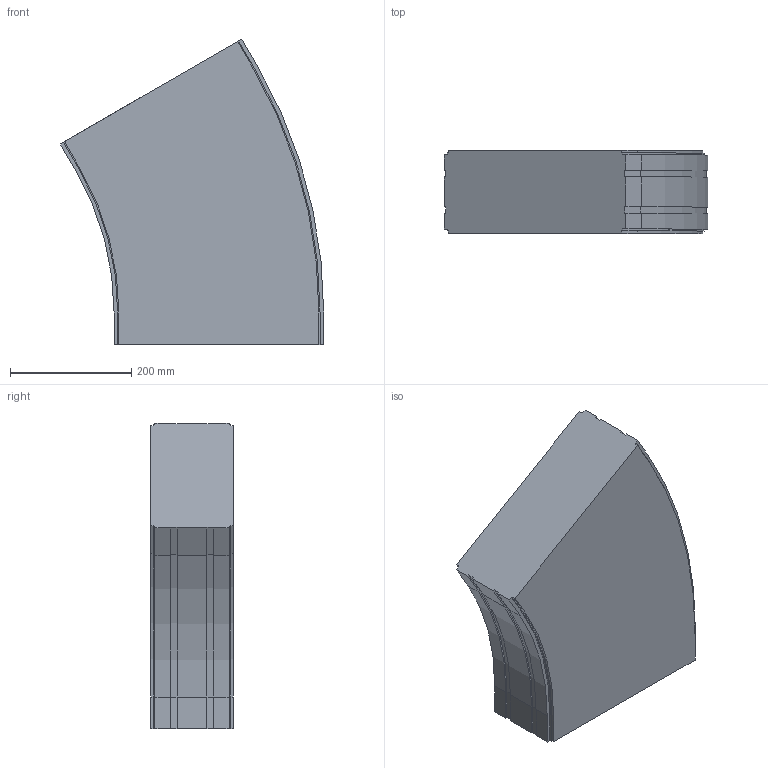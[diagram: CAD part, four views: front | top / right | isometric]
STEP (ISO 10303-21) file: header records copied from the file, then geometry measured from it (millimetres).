
FILE_DESCRIPTION (( 'STEP AP214' ), '1' );
FILE_NAME ('FS-MTC2-150-INOX horizontaalbocht.350 30°.STEP', '2017-02-08T12:40:28', ( '' ), ( '' ), 'SwSTEP 2.0', 'SolidWorks 2016', '' );
FILE_SCHEMA (( 'AUTOMOTIVE_DESIGN' ));
Length unit declared in the file: millimetre
Products named in the file (1): FS-MTC2-150-INOX horizontaalbocht.350 30°
Bounding box: 434.82 x 136.5 x 504.47 mm (x, y, z)
Volume: 20652107.5 mm3; surface area: 527352.9 mm2
Topology: 1 solids, 1 shells, 74 faces, 216 edges, 144 vertices
Faces by surface type: plane 56, cylinder 18
Entity records: 2470 total; most frequent: CARTESIAN_POINT 435, ORIENTED_EDGE 432, DIRECTION 402, EDGE_CURVE 216, LINE 180, VECTOR 180, VERTEX_POINT 144, AXIS2_PLACEMENT_3D 111
